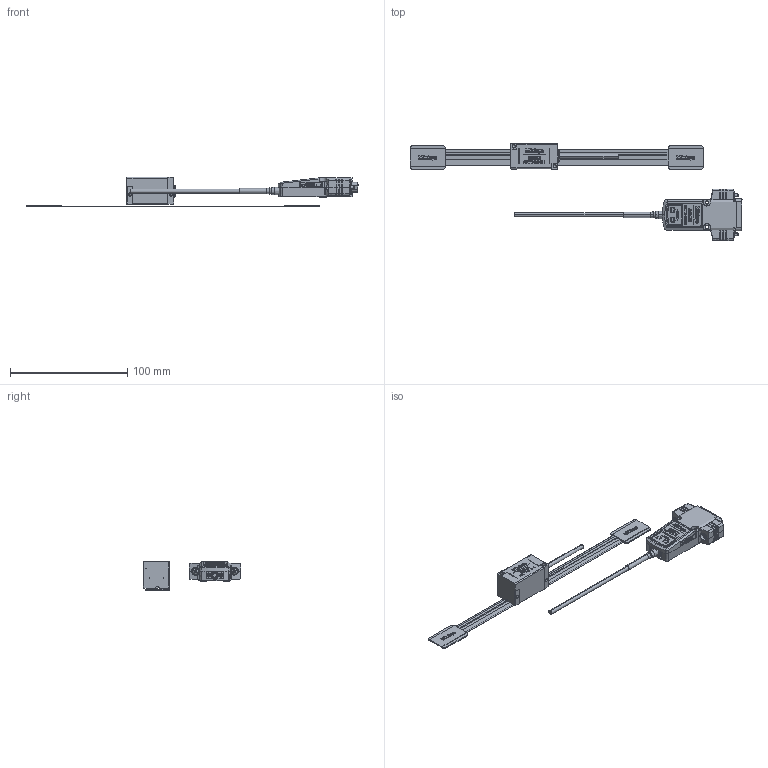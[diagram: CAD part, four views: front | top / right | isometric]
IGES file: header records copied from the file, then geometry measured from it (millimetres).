
Start section: Elysium IGES Interface
Global section: file name: 85H\\Utsu119s\kiyo_cad\data\3D\ABS ST1300\HP宖嵹梡_201708\ST1300-E僞僀僾\ST1300-150E.igs; native system: Creo Elements/Direct Modeling 18.1B  29-Sep-2012; preprocessor: Creo Element/Direct IGES_3D V2.2; author: Unknown; organization: Unknown; date: 20180227.101358; units: millimetre
Bounding box: 283.1 x 83 x 25.45 mm (x, y, z)
Volume: 22341.2 mm3; surface area: 24474.3 mm2
Topology: 3 solids, 6 shells, 3200 faces, 8942 edges, 5912 vertices
Faces by surface type: bspline 3200
